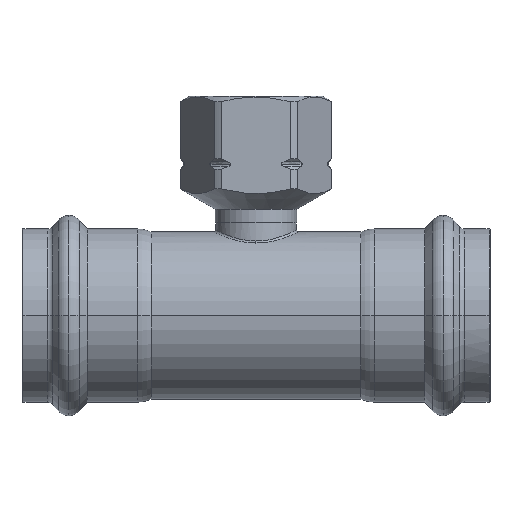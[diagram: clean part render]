
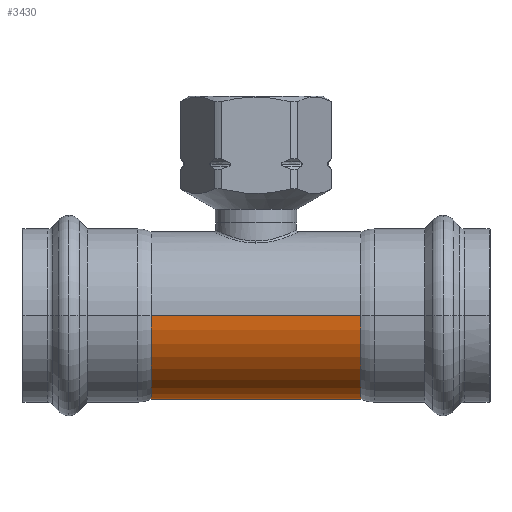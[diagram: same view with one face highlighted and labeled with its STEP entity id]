
A CAD part, left-side view. The second image highlights one B-rep face of the part: STEP entity #3430.
In plain terms, the highlighted cylindrical face has radius 18.5 mm (diameter 37 mm), a partial arc.
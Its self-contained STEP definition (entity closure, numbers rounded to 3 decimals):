
#2870=CARTESIAN_POINT('',(49.506,37.239,0.));
#2880=VERTEX_POINT('',#2870);
#2980=CARTESIAN_POINT('',(12.506,37.239,0.));
#2990=VERTEX_POINT('',#2980);
#3020=CARTESIAN_POINT('',(31.006,37.239,0.));
#3030=DIRECTION('',(0.,1.,0.));
#3040=DIRECTION('',(-1.,0.,0.));
#3050=AXIS2_PLACEMENT_3D('',#3020,#3030,#3040);
#3060=CIRCLE('',#3050,18.5);
#3070=EDGE_CURVE('',#2880,#2990,#3060,.T.);
#3120=CARTESIAN_POINT('',(31.006,14.039,0.));
#3130=DIRECTION('',(0.,1.,0.));
#3140=DIRECTION('',(1.,0.,0.));
#3150=AXIS2_PLACEMENT_3D('',#3120,#3130,#3140);
#3160=CYLINDRICAL_SURFACE('',#3150,18.5);
#3170=CARTESIAN_POINT('',(49.506,14.039,0.));
#3180=DIRECTION('',(0.,1.,0.));
#3190=VECTOR('',#3180,1.);
#3200=LINE('',#3170,#3190);
#3210=CARTESIAN_POINT('',(49.506,-9.161,0.));
#3220=VERTEX_POINT('',#3210);
#3230=EDGE_CURVE('',#3220,#2880,#3200,.T.);
#3240=ORIENTED_EDGE('',*,*,#3230,.F.);
#3250=ORIENTED_EDGE('',*,*,#3070,.F.);
#3260=CARTESIAN_POINT('',(12.506,14.039,
0.));
#3270=DIRECTION('',(0.,1.,0.));
#3280=VECTOR('',#3270,1.);
#3290=LINE('',#3260,#3280);
#3300=CARTESIAN_POINT('',(12.506,-9.161,0.));
#3310=VERTEX_POINT('',#3300);
#3320=EDGE_CURVE('',#3310,#2990,#3290,.T.);
#3330=ORIENTED_EDGE('',*,*,#3320,.T.);
#3340=CARTESIAN_POINT('',(31.006,-9.161,0.));
#3350=DIRECTION('',(0.,1.,0.));
#3360=DIRECTION('',(-1.,0.,0.));
#3370=AXIS2_PLACEMENT_3D('',#3340,#3350,#3360);
#3380=CIRCLE('',#3370,18.5);
#3390=EDGE_CURVE('',#3220,#3310,#3380,.T.);
#3400=ORIENTED_EDGE('',*,*,#3390,.T.);
#3410=EDGE_LOOP('',(#3400,#3330,#3250,#3240));
#3420=FACE_OUTER_BOUND('',#3410,.T.);
#3430=ADVANCED_FACE('',(#3420),#3160,.T.);
